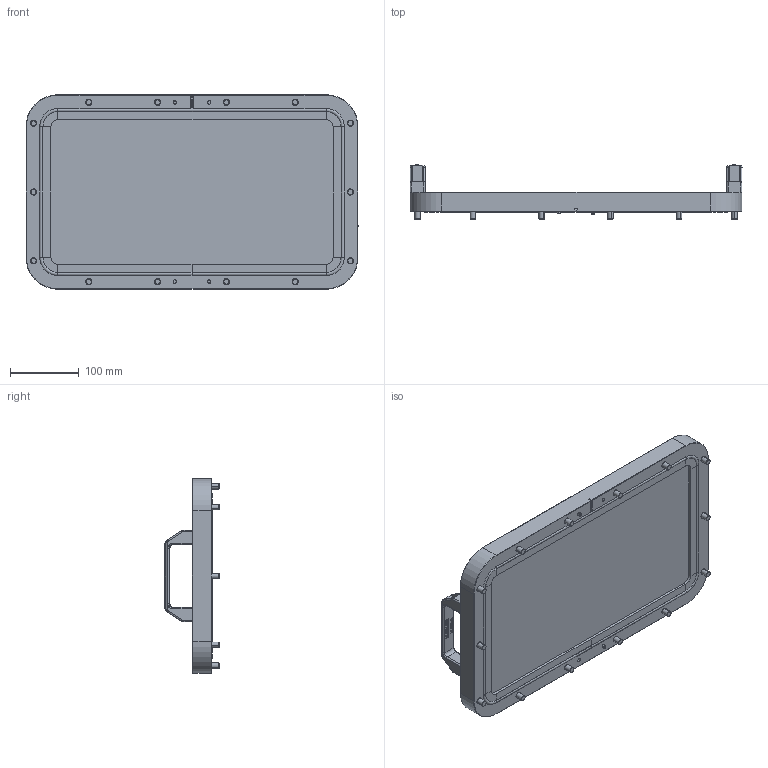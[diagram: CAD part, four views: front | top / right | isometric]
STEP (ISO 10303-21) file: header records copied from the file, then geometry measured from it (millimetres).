
FILE_DESCRIPTION (( 'STEP AP214' ), '1' );
FILE_NAME ('JKR4020-G-A-V-A-200503.STEP', '2020-05-03T06:04:16', ( '' ), ( '' ), 'SwSTEP 2.0', 'SolidWorks 2018', '' );
FILE_SCHEMA (( 'AUTOMOTIVE_DESIGN' ));
Length unit declared in the file: millimetre
Products named in the file (9): JKR4020-05A; JKR4020-02A; COM-001-M8-30_ル遽; JKR4020-03A; COM-005-5-10L; JKR4020-G-A-V-A-200503; JKR4020-04A; bycs-8; JKR4020-01A
Assembly tree (23 placements, depth 2):
  JKR4020-G-A-V-A-200503
    JKR4020-03A
    JKR4020-04A
    JKR4020-01A
    JKR4020-02A
    JKR4020-05A
    COM-001-M8-30_ル遽  x14
    COM-005-5-10L  x2
    bycs-8  x2
Bounding box: 482.6 x 78.58 x 282.6 mm (x, y, z)
Volume: 2968161.6 mm3; surface area: 556151 mm2
Topology: 21 solids, 23 shells, 1646 faces, 4232 edges, 2709 vertices
Faces by surface type: plane 1116, cylinder 342, cone 100, torus 68, bspline 20
Entity records: 29275 total; most frequent: CARTESIAN_POINT 8036, ORIENTED_EDGE 4652, DIRECTION 4149, EDGE_CURVE 2330, AXIS2_PLACEMENT_3D 1555, VERTEX_POINT 1473, LINE 1039, VECTOR 1039
